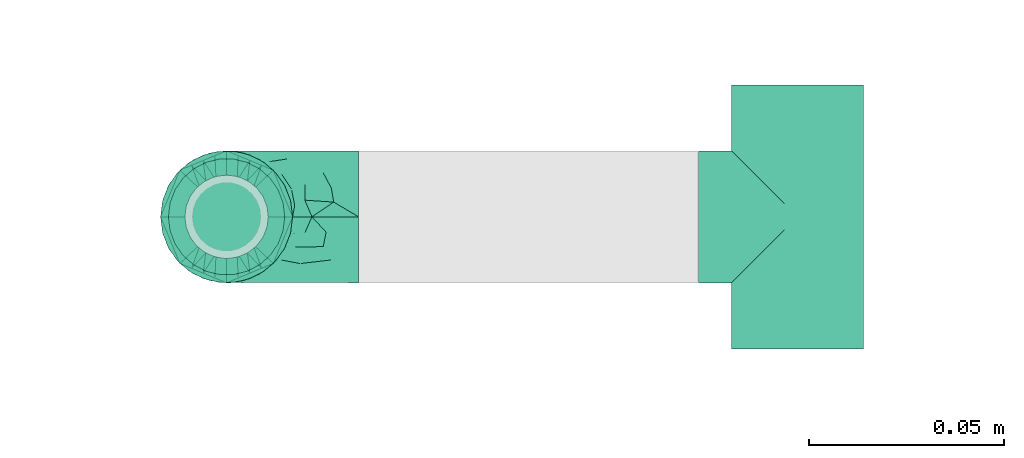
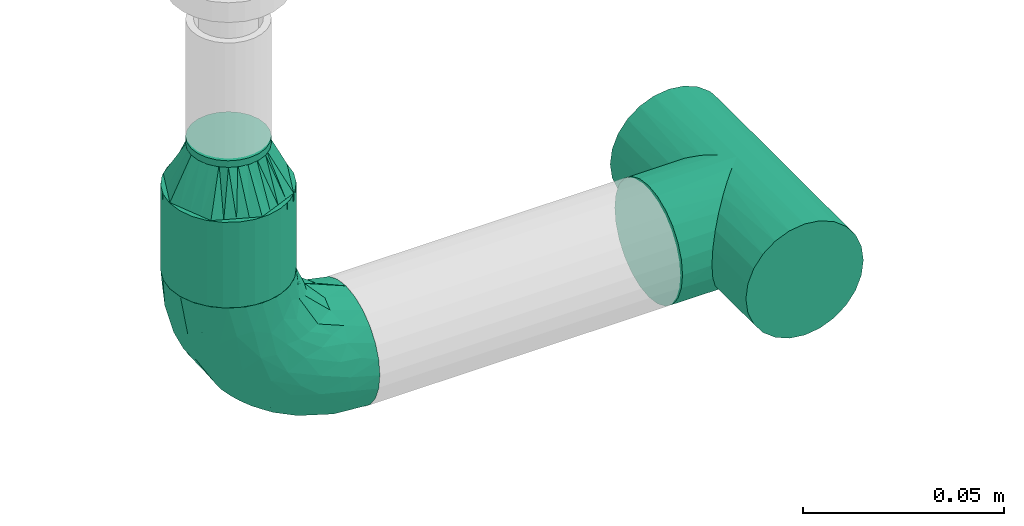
# One storey, part 74 of 157: 3 flow fittings, 1 flow segment.
"""IFC2X3 building model written with IfcOpenShell, lengths in millimetres."""

from ifc_helpers import new_model, entity, si_unit, converted_unit, derived_unit, direction, frame, origin_with_axes, origin_2d_with_axis, place, context, subcontext, project, spatial, hollow_circle, extrude, open_shell, surface_model, source, transform, mapped, type_object, element, save


model = new_model("IFC2X3")

# Units and contexts
model_context = context("Model", 3, precision=0.01, world=frame((0.0, 4.29681676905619e-09, 0.0)), true_north=direction((4.01073788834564e-13, 1.0)))
plan_context = context("Plan", 3, precision=0.01, world=frame((0.0, 4.29681676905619e-09, 0.0)), true_north=direction((4.01073788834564e-13, 1.0)))
body_context = subcontext(model_context, "Body", "Model", "MODEL_VIEW")
ifc_project = project(units=[converted_unit("PLANEANGLEUNIT", "DEGREE", entity("IfcPositiveLengthMeasure", 0.0174532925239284), si_unit("PLANEANGLEUNIT", "RADIAN"), dimensions=[0, 0, 0, 0, 0, 0, 0]), si_unit("AREAUNIT", "SQUARE_METRE"), si_unit("LENGTHUNIT", "METRE", prefix="MILLI"), si_unit("MASSUNIT", "GRAM", prefix="KILO"), si_unit("POWERUNIT", "WATT"), si_unit("PRESSUREUNIT", "PASCAL"), si_unit("FORCEUNIT", "NEWTON", prefix="KILO"), si_unit("ELECTRICCURRENTUNIT", "AMPERE"), si_unit("THERMODYNAMICTEMPERATUREUNIT", "DEGREE_CELSIUS"), si_unit("TIMEUNIT", "SECOND"), si_unit("VOLUMEUNIT", "CUBIC_METRE"), derived_unit("LINEARVELOCITYUNIT", [(si_unit("LENGTHUNIT", "METRE"), 1), (si_unit("TIMEUNIT", "SECOND"), -1)]), derived_unit("VOLUMETRICFLOWRATEUNIT", [(si_unit("VOLUMEUNIT", "CUBIC_METRE"), 1), (si_unit("TIMEUNIT", "SECOND"), -1)]), derived_unit("THERMALTRANSMITTANCEUNIT", [(si_unit("POWERUNIT", "WATT"), 1), (si_unit("THERMODYNAMICTEMPERATUREUNIT", "KELVIN"), -1), (si_unit("AREAUNIT", "SQUARE_METRE"), -1)])], contexts=[model_context, plan_context])

# Site, building, storey
site_placement = place(None, frame((0.0, -4.29681676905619e-09, 0.0), z_axis=(0.0, 0.0, 1.0), x_axis=(1.0, 0.0, 0.0)))
site = spatial("IfcSite", under=ifc_project, at=site_placement, CompositionType="ELEMENT")
building_placement = place(site_placement, frame((0.0, 4.29681676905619e-09, 0.0), z_axis=(0.0, 0.0, 1.0), x_axis=(1.0, 0.0, 0.0)))
building = spatial("IfcBuilding", under=site, at=building_placement, Name="mc-building", CompositionType="ELEMENT")
storey_placement = place(building_placement, frame((0.0, 0.0, 204000.0), z_axis=(0.0, 0.0, 1.0), x_axis=(1.0, 0.0, 0.0)))
storey = spatial("IfcBuildingStorey", under=building, at=storey_placement, Name="Nivå D", CompositionType="ELEMENT", Elevation=204000.0)

# Flow fittings
pipe_fitting_type_1 = type_object("IfcPipeFittingType", Name="magi_pipe_fe_tee_centric_90_NOR", PredefinedType="JUNCTION")
shared_shape_1 = source(origin_with_axes(), body_context, "Body", "SurfaceModel", [
    surface_model("IfcShellBasedSurfaceModel", [(-33.8, 4.37404, -16.32415), (-33.8, 0.0, -16.9), (-33.8, 16.32415, -4.37404), (-33.8, 8.45, -14.63583), (-33.8, 11.9501, -11.9501), (-33.8, 14.63583, -8.45), (-33.8, -16.9, 0.0), (-33.8, -11.9501, -11.9501), (-33.8, -14.63583, -8.45), (-33.8, -8.45, -14.63583), (-33.8, -4.37404, -16.32415), (-33.8, -16.32415, -4.37404), (-33.8, 14.63583, 8.45), (-33.8, 16.32415, 4.37404), (-33.8, -8.45, 14.63583), (-33.8, 8.45, 14.63583), (-33.8, 11.9501, 11.9501), (-33.8, 4.37404, 16.32415), (-33.8, 0.0, 16.9), (-33.8, -11.9501, 11.9501), (-33.8, -14.63583, 8.45), (-33.8, -16.32415, 4.37404), (-33.8, -4.37404, 16.32415), (-33.8, 16.9, 0.0), (33.8, 4.37404, -16.32415), (33.8, -16.9, 0.0), (33.8, 0.0, -16.9), (33.8, 14.63583, -8.45), (33.8, 8.45, -14.63583), (33.8, 16.32415, -4.37404), (33.8, 11.9501, -11.9501), (33.8, -16.32415, 4.37404), (33.8, -8.45, -14.63583), (33.8, -4.37404, -16.32415), (33.8, -11.9501, -11.9501), (33.8, -14.63583, -8.45), (33.8, -16.32415, -4.37404), (33.8, 16.32415, 4.37404), (33.8, 8.45, 14.63583), (33.8, 14.63583, 8.45), (33.8, 11.9501, 11.9501), (33.8, -8.45, 14.63583), (33.8, 4.37404, 16.32415), (33.8, -14.63583, 8.45), (33.8, -11.9501, 11.9501), (33.8, 0.0, 16.9), (33.8, -4.37404, 16.32415), (33.8, 16.9, 0.0), (16.28698, -16.28698, 4.51047), (16.9, -16.9, 0.0), (14.62704, -14.62704, 8.4652), (9.47213, -9.47213, 13.99602), (12.26343, -12.26343, 11.62834), (-16.9, -16.9, 0.0), (-16.28698, -16.28698, 4.51047), (-14.62704, -14.62704, 8.4652), (-12.26343, -12.26343, 11.62834), (-9.47213, -9.47213, 13.99602), (-6.42894, -6.42894, 15.62942), (6.42894, -6.42894, 15.62942), (3.24522, -3.24522, 16.58549), (0.0, 0.0, 16.9), (-3.24522, -3.24522, 16.58549), (3.24522, -3.24522, -16.58549), (0.0, 0.0, -16.9), (-3.24522, -3.24522, -16.58549), (-6.42894, -6.42894, -15.62942), (6.42894, -6.42894, -15.62942), (9.47213, -9.47213, -13.99602), (12.26343, -12.26343, -11.62834), (14.62704, -14.62704, -8.4652), (16.28698, -16.28698, -4.51047), (-9.47213, -9.47213, -13.99602), (-12.26343, -12.26343, -11.62834), (-16.28698, -16.28698, -4.51047), (-14.62704, -14.62704, -8.4652), (4.37404, -25.35, -16.32415), (-16.9, -25.35, 0.0), (0.0, -25.35, -16.9), (14.63583, -25.35, -8.45), (8.45, -25.35, -14.63583), (16.32415, -25.35, -4.37404), (11.9501, -25.35, -11.9501), (-11.9501, -25.35, -11.9501), (-8.45, -25.35, -14.63583), (-4.37404, -25.35, -16.32415), (-14.63583, -25.35, -8.45), (-16.32415, -25.35, -4.37404), (16.9, -25.35, 0.0), (8.45, -25.35, 14.63583), (16.32415, -25.35, 4.37404), (14.63583, -25.35, 8.45), (-8.45, -25.35, 14.63583), (11.9501, -25.35, 11.9501), (4.37404, -25.35, 16.32415), (-16.32415, -25.35, 4.37404), (-11.9501, -25.35, 11.9501), (-14.63583, -25.35, 8.45), (0.0, -25.35, 16.9), (-4.37404, -25.35, 16.32415)], [open_shell([[[0, 1, 2]], [[3, 0, 4]], [[0, 2, 5]], [[4, 0, 5]], [[6, 2, 1]], [[7, 8, 9]], [[1, 10, 9]], [[11, 6, 8]], [[1, 9, 8]], [[1, 8, 6]], [[6, 12, 2]], [[12, 13, 2]], [[14, 12, 6]], [[12, 14, 15]], [[16, 12, 15]], [[17, 15, 18]], [[19, 14, 20]], [[21, 20, 14]], [[22, 18, 14]], [[14, 6, 21]], [[14, 18, 15]], [[23, 2, 13]], [[24, 25, 26]], [[27, 24, 28]], [[27, 29, 24]], [[27, 28, 30]], [[31, 25, 24]], [[26, 32, 33]], [[26, 34, 32]], [[35, 25, 36]], [[35, 34, 26]], [[25, 35, 26]], [[24, 29, 31]], [[29, 37, 38]], [[38, 37, 39]], [[38, 31, 29]], [[38, 39, 40]], [[41, 38, 42]], [[43, 41, 44]], [[41, 43, 31]], [[41, 45, 46]], [[41, 31, 38]], [[42, 45, 41]], [[29, 47, 37]], [[31, 43, 48]], [[25, 31, 49]], [[49, 31, 48]], [[43, 50, 48]], [[44, 41, 51]], [[50, 43, 52]], [[51, 52, 44]], [[52, 43, 44]], [[53, 54, 21]], [[53, 21, 6]], [[21, 54, 20]], [[54, 55, 20]], [[56, 57, 19]], [[19, 20, 56]], [[19, 57, 14]], [[56, 20, 55]], [[14, 57, 58]], [[51, 41, 59]], [[60, 45, 61]], [[59, 46, 60]], [[46, 59, 41]], [[60, 46, 45]], [[61, 45, 42]], [[39, 37, 13]], [[16, 38, 40]], [[12, 40, 39]], [[42, 38, 15]], [[23, 37, 47]], [[62, 61, 18]], [[62, 22, 58]], [[22, 62, 18]], [[58, 22, 14]], [[61, 17, 18]], [[42, 17, 61]], [[15, 17, 42]], [[15, 38, 16]], [[12, 16, 40]], [[13, 12, 39]], [[37, 23, 13]], [[5, 27, 30]], [[23, 47, 29]], [[30, 28, 3]], [[27, 2, 29]], [[26, 33, 63]], [[26, 64, 24]], [[64, 26, 63]], [[28, 24, 0]], [[64, 0, 24]], [[4, 30, 3]], [[2, 27, 5]], [[5, 30, 4]], [[2, 23, 29]], [[65, 66, 10]], [[1, 0, 64]], [[1, 65, 10]], [[66, 9, 10]], [[0, 3, 28]], [[1, 64, 65]], [[63, 33, 67]], [[32, 34, 68]], [[69, 68, 34]], [[35, 70, 69]], [[69, 34, 35]], [[32, 68, 67]], [[36, 25, 49]], [[36, 71, 35]], [[71, 36, 49]], [[35, 71, 70]], [[72, 9, 66]], [[72, 7, 9]], [[7, 72, 73]], [[7, 73, 8]], [[74, 53, 11]], [[75, 74, 8]], [[74, 11, 8]], [[11, 53, 6]], [[75, 8, 73]], [[32, 67, 33]], [[76, 77, 78]], [[79, 76, 80]], [[79, 81, 76]], [[79, 80, 82]], [[77, 76, 81]], [[78, 83, 84]], [[84, 85, 78]], [[86, 77, 87]], [[83, 78, 86]], [[77, 86, 78]], [[81, 88, 77]], [[89, 88, 90]], [[89, 90, 91]], [[92, 77, 89]], [[89, 91, 93]], [[92, 89, 94]], [[95, 96, 97]], [[96, 95, 92]], [[92, 98, 99]], [[95, 77, 92]], [[94, 98, 92]], [[89, 77, 88]], [[77, 95, 53]], [[54, 53, 95]], [[97, 96, 56]], [[96, 92, 57]], [[95, 97, 54]], [[58, 92, 99]], [[55, 54, 97]], [[56, 55, 97]], [[58, 57, 92]], [[98, 61, 62]], [[58, 99, 62]], [[56, 96, 57]], [[62, 99, 98]], [[94, 60, 98]], [[89, 59, 94]], [[91, 90, 48]], [[52, 93, 91]], [[93, 51, 89]], [[49, 90, 88]], [[59, 60, 94]], [[51, 59, 89]], [[49, 48, 90]], [[50, 52, 91]], [[48, 50, 91]], [[51, 93, 52]], [[98, 60, 61]], [[88, 81, 49]], [[71, 49, 81]], [[79, 82, 69]], [[82, 80, 68]], [[81, 79, 71]], [[67, 80, 76]], [[70, 71, 79]], [[69, 70, 79]], [[67, 68, 80]], [[78, 64, 63]], [[67, 76, 63]], [[69, 82, 68]], [[63, 76, 78]], [[85, 65, 78]], [[84, 66, 85]], [[86, 87, 74]], [[86, 73, 83]], [[72, 84, 83]], [[53, 87, 77]], [[66, 65, 85]], [[72, 66, 84]], [[53, 74, 87]], [[75, 73, 86]], [[74, 75, 86]], [[72, 83, 73]], [[78, 65, 64]]])]),
])
flow_fitting_1_placement = place(storey_placement, frame((516023.00602, 415796.86725, 2565.0), z_axis=(0.0, 0.0, 1.0), x_axis=(0.0, -1.0, 0.0)))
element("IfcFlowFitting", 1, at=flow_fitting_1_placement, inside=storey, type_object=pipe_fitting_type_1, Name="magi_pipe_fe_tee_centric_90_NOR", context=body_context, shape_type="MappedRepresentation", body=[
    mapped(shared_shape_1, transform((0.0, 0.0, 0.0), scale=1.0)),
])
pipe_fitting_type_2 = type_object("IfcPipeFittingType", Name="magi_pipe_fe_elbow_short_001", PredefinedType="BEND")
shared_shape_2 = source(origin_with_axes(), body_context, "Body", "SurfaceModel", [
    surface_model("IfcShellBasedSurfaceModel", [(-33.8, 8.45, -14.63583), (-33.8, 4.37404, -16.32415), (-33.8, 11.9501, -11.9501), (-33.8, -11.9501, -11.9501), (-33.8, -14.63583, -8.45), (-33.8, -8.45, -14.63583), (-33.8, 0.0, -16.9), (-33.8, -4.37404, -16.32415), (-33.8, -4.37404, 16.32415), (-33.8, 0.0, 16.9), (-33.8, -8.45, 14.63583), (-33.8, 16.32415, -4.37404), (-33.8, 14.63583, -8.45), (-33.8, -16.32415, -4.37404), (-33.8, -16.9, 0.0), (-33.8, -16.32415, 4.37404), (-33.8, 11.9501, 11.9501), (-33.8, 14.63583, 8.45), (-33.8, 16.32415, 4.37404), (-33.8, 4.37404, 16.32415), (-33.8, 8.45, 14.63583), (-33.8, -14.63583, 8.45), (-33.8, -11.9501, 11.9501), (-33.8, 16.9, 0.0), (-11.9501, 33.8, -11.9501), (0.0, 33.8, -16.9), (-4.37404, 33.8, -16.32415), (-8.45, 33.8, -14.63583), (-14.63583, 33.8, -8.45), (-16.32415, 33.8, -4.37404), (14.63583, 33.8, -8.45), (8.45, 33.8, 14.63583), (16.32415, 33.8, -4.37404), (8.45, 33.8, -14.63583), (11.9501, 33.8, -11.9501), (4.37404, 33.8, -16.32415), (16.32415, 33.8, 4.37404), (16.9, 33.8, 0.0), (-11.9501, 33.8, 11.9501), (-16.32415, 33.8, 4.37404), (-14.63583, 33.8, 8.45), (-8.45, 33.8, 14.63583), (-4.37404, 33.8, 16.32415), (11.9501, 33.8, 11.9501), (14.63583, 33.8, 8.45), (0.0, 33.8, 16.9), (4.37404, 33.8, 16.32415), (-16.9, 33.8, 0.0), (-24.79389, -13.12945, 9.48721), (-22.19287, -9.75018, 12.59315), (-24.09897, -14.97035, 0.0), (-14.93934, -10.76256, 8.5297), (-22.46095, -14.75051, 5.27077), (14.75051, 22.46094, 5.27077), (11.9251, 13.23888, 4.33236), (13.04069, 14.39795, 0.0), (7.71387, 13.68847, 11.55891), (9.75018, 22.19287, 12.59315), (4.10169, 13.0571, 14.04018), (-24.84007, -6.39063, 15.2048), (-25.81779, -2.23879, 16.61097), (-23.66549, 2.59054, 16.87119), (-26.50418, 14.06512, 11.08152), (-24.21253, 17.66365, 7.72657), (-29.58514, 15.86957, 7.00283), (-6.17382, -7.5455, 0.0), (-13.23888, -11.9251, 4.33236), (-14.39795, -13.04069, 0.0), (-17.81434, 18.87373, 11.97104), (-6.30846, 29.15138, 15.82987), (-2.31622, 25.28002, 16.85849), (-29.23923, 10.23435, 13.77053), (-1.45439, -2.85688, 7.61475), (-0.28326, 0.34872, 10.09509), (-5.74484, -4.04709, 10.4122), (-4.41137, 11.31918, 16.59407), (-8.39727, 3.10034, 15.7812), (-1.72649, 9.1306, 15.53089), (-17.39909, 24.75344, 7.64977), (-26.19233, 20.0512, 0.0), (-28.14518, 17.29657, 4.25857), (-26.05147, 6.6281, 15.96447), (-5.87354, 16.61944, 16.86968), (-12.51807, 12.51807, 16.48937), (-10.06312, 7.38516, 16.81295), (-3.01882, 3.01882, 13.81718), (-13.0571, -4.10169, 14.04018), (-16.82553, -0.15166, 16.38038), (10.76256, 14.93934, 8.5297), (13.12945, 24.79389, 9.48721), (6.39063, 24.84007, 15.2048), (2.23879, 25.81779, 16.61097), (-13.68847, -7.71387, 11.55891), (14.97035, 24.09897, 0.0), (-7.30894, 22.89991, 16.09489), (-10.67958, 26.17414, 14.008), (-12.78295, 18.26924, 15.06066), (-13.88562, 22.45231, 12.93244), (-18.04944, 15.16501, 14.04434), (-23.11658, 20.08178, 4.02986), (-21.84989, 21.84989, 0.0), (-18.55817, 25.48277, 3.93065), (-13.95142, 26.94732, 11.03289), (-18.57098, 7.23906, 16.59756), (-16.58335, 4.14122, 16.89279), (-17.96666, 11.46709, 15.63151), (-9.84453, 17.54304, 16.18938), (0.15166, 16.82553, 16.38038), (-23.27207, 11.47201, 14.23154), (3.84842, 5.86994, 10.70473), (-8.0212, -7.54413, 7.93275), (1.00345, -2.19508, 4.57414), (5.13203, 3.01004, 5.90201), (5.24161, 1.7543, 2.53265), (8.70457, 7.04947, 3.99182), (-20.0512, 26.19233, 0.0), (8.4852, 8.76699, 7.09296), (-4.55488, -6.72064, 4.90681), (2.05031, -2.05031, 0.0), (7.5455, 6.17382, 0.0), (-26.75399, 2.1369, -16.845), (-14.61995, 24.73803, -11.27736), (-28.45274, -13.45335, -9.81895), (-26.00469, 6.63555, -15.96645), (-23.06726, 20.04573, -4.26202), (-13.80647, -4.26506, -14.17873), (-14.67501, -0.21081, -16.07388), (-6.7902, -0.2828, -13.8478), (-24.53586, 11.08096, -14.13417), (-26.72048, 14.00837, -11.05776), (10.0967, 24.44989, -12.75976), (5.83237, 21.40218, -15.03047), (6.66249, 28.54238, -15.38093), (-20.38182, 15.48705, -12.74596), (12.53268, 21.23441, -9.15363), (12.54494, 15.67504, -5.54878), (9.7522, 12.89279, -8.66343), (-15.65186, 19.64213, -13.01327), (-12.03528, 20.66498, -14.67665), (-15.61907, 15.61906, -14.83879), (-25.56551, -15.26206, 0.0), (-24.65452, -15.12934, -5.50955), (13.45335, 28.45274, -9.81895), (15.12934, 24.65452, -5.50955), (-7.35442, -8.31014, -5.65563), (-15.67504, -12.54494, -5.54878), (-24.44989, -10.0967, -12.75976), (0.16522, 0.41303, -9.71728), (-5.70658, -5.33066, -8.89288), (-5.13869, -2.37198, -11.53565), (-21.23441, -12.53268, -9.15363), (0.71146, 7.93863, -14.09382), (0.21081, 14.67501, -16.07388), (3.49291, 14.42772, -14.76381), (-24.89911, -2.13088, -16.591), (-28.54238, -6.66249, -15.38093), (-18.44386, -7.71663, -13.26957), (2.13088, 24.89911, -16.591), (-28.64342, 17.44413, -2.89318), (1.70017, -1.28722, -5.09504), (-16.57067, 26.81947, -7.36596), (-17.69055, 27.4263, -3.76405), (-12.89279, -9.7522, -8.66343), (-5.96611, 5.96611, -15.95814), (-20.53709, 20.09345, -8.28985), (-2.1369, 26.75399, -16.845), (-6.89872, 24.58781, -16.02578), (-10.60739, 26.53157, -13.98044), (-21.40218, -5.83237, -15.03047), (2.93192, 5.89627, -11.55917), (6.89393, 12.61842, -11.82233), (5.58056, 5.95325, -8.79455), (-3.99512, 18.61798, -16.89635), (8.31014, 7.35442, -5.65563), (-9.1383, 9.86148, -16.89041), (-9.99983, 16.02119, -16.39699), (-16.68576, 9.78031, -16.34199), (-27.01915, 16.61158, -7.12979), (15.26206, 25.56551, 0.0), (-18.61798, 3.99512, -16.89635), (-19.37495, 27.82495, 0.0), (-12.61842, -6.89393, -11.82233), (-18.84705, 19.14018, -10.96545)], [open_shell([[[0, 1, 2]], [[3, 4, 5]], [[6, 7, 5]], [[8, 9, 10]], [[1, 6, 2]], [[11, 12, 2]], [[4, 2, 6]], [[2, 13, 10]], [[5, 4, 6]], [[2, 4, 13]], [[14, 15, 13]], [[11, 2, 16]], [[11, 17, 18]], [[11, 16, 17]], [[19, 20, 16]], [[16, 2, 10]], [[19, 16, 10]], [[21, 22, 15]], [[22, 13, 15]], [[22, 10, 13]], [[10, 9, 19]], [[11, 18, 23]], [[24, 25, 26]], [[24, 26, 27]], [[24, 28, 29]], [[25, 24, 30]], [[31, 32, 24]], [[33, 30, 34]], [[33, 35, 25]], [[25, 30, 33]], [[32, 30, 24]], [[32, 36, 37]], [[38, 24, 29]], [[39, 40, 29]], [[40, 38, 29]], [[38, 41, 42]], [[38, 31, 24]], [[31, 38, 42]], [[36, 43, 44]], [[36, 32, 43]], [[31, 45, 46]], [[32, 31, 43]], [[42, 45, 31]], [[39, 29, 47]], [[22, 48, 49]], [[15, 14, 50]], [[51, 48, 52]], [[53, 54, 55]], [[48, 22, 21]], [[15, 52, 21]], [[56, 57, 58]], [[49, 10, 22]], [[49, 59, 10]], [[9, 60, 61]], [[62, 63, 64]], [[65, 66, 67]], [[57, 43, 31]], [[62, 68, 63]], [[42, 69, 70]], [[20, 71, 16]], [[8, 60, 9]], [[72, 73, 74]], [[75, 76, 77]], [[16, 62, 17]], [[40, 39, 78]], [[79, 23, 80]], [[64, 18, 17]], [[9, 61, 19]], [[19, 81, 20]], [[82, 83, 84]], [[74, 85, 86]], [[59, 86, 87]], [[88, 89, 57]], [[90, 31, 46]], [[44, 53, 36]], [[46, 45, 91]], [[54, 53, 88]], [[44, 89, 53]], [[92, 86, 49]], [[89, 44, 43]], [[10, 59, 8]], [[53, 55, 93]], [[93, 36, 53]], [[66, 52, 67]], [[94, 82, 70]], [[95, 96, 94]], [[97, 98, 96]], [[79, 99, 100]], [[41, 38, 95]], [[101, 100, 99]], [[68, 78, 63]], [[42, 41, 69]], [[23, 18, 80]], [[95, 94, 69]], [[78, 101, 99]], [[38, 102, 95]], [[70, 45, 42]], [[97, 95, 102]], [[15, 50, 52]], [[90, 57, 31]], [[57, 90, 58]], [[81, 19, 61]], [[103, 104, 84]], [[105, 81, 103]], [[38, 40, 102]], [[106, 96, 83]], [[94, 106, 82]], [[91, 70, 107]], [[71, 62, 16]], [[62, 108, 98]], [[86, 59, 49]], [[67, 52, 50]], [[60, 59, 87]], [[92, 49, 51]], [[86, 85, 76]], [[91, 90, 46]], [[37, 36, 93]], [[107, 77, 58]], [[107, 58, 90]], [[58, 85, 109]], [[110, 74, 92]], [[72, 74, 110]], [[66, 51, 52]], [[72, 111, 112]], [[113, 114, 112]], [[56, 88, 57]], [[52, 48, 21]], [[49, 48, 51]], [[57, 89, 43]], [[53, 89, 88]], [[103, 81, 61]], [[71, 81, 108]], [[18, 64, 80]], [[63, 78, 99]], [[47, 115, 101]], [[101, 115, 100]], [[40, 78, 102]], [[68, 102, 78]], [[97, 96, 95]], [[105, 98, 108]], [[103, 84, 83]], [[107, 70, 82]], [[76, 84, 87]], [[82, 84, 75]], [[70, 91, 45]], [[90, 91, 107]], [[59, 60, 8]], [[61, 60, 87]], [[73, 85, 74]], [[109, 112, 116]], [[103, 61, 104]], [[105, 103, 83]], [[96, 105, 83]], [[81, 105, 108]], [[96, 98, 105]], [[62, 98, 68]], [[61, 87, 104]], [[87, 84, 104]], [[86, 76, 87]], [[77, 76, 85]], [[58, 77, 85]], [[75, 77, 107]], [[82, 75, 107]], [[76, 75, 84]], [[81, 71, 20]], [[62, 71, 108]], [[95, 69, 41]], [[70, 69, 94]], [[62, 64, 17]], [[80, 63, 99]], [[63, 80, 64]], [[80, 99, 79]], [[66, 65, 117]], [[110, 66, 117]], [[112, 114, 116]], [[118, 117, 65]], [[110, 92, 51]], [[112, 111, 113]], [[119, 55, 54]], [[74, 86, 92]], [[58, 109, 56]], [[116, 56, 109]], [[66, 110, 51]], [[72, 110, 117]], [[111, 72, 117]], [[73, 112, 109]], [[117, 118, 111]], [[113, 111, 118]], [[118, 119, 113]], [[114, 119, 54]], [[119, 114, 113]], [[116, 54, 88]], [[54, 116, 114]], [[116, 88, 56]], [[112, 73, 72]], [[85, 73, 109]], [[78, 39, 101]], [[47, 101, 39]], [[102, 68, 97]], [[97, 68, 98]], [[82, 106, 83]], [[94, 96, 106]], [[1, 120, 6]], [[28, 24, 121]], [[3, 122, 4]], [[0, 123, 1]], [[100, 124, 79]], [[125, 126, 127]], [[128, 2, 129]], [[130, 131, 132]], [[128, 129, 133]], [[134, 135, 136]], [[137, 138, 139]], [[128, 0, 2]], [[67, 140, 141]], [[134, 142, 143]], [[141, 13, 4]], [[144, 65, 145]], [[146, 3, 5]], [[147, 148, 149]], [[145, 141, 150]], [[151, 152, 153]], [[154, 7, 6]], [[5, 155, 146]], [[150, 146, 156]], [[155, 5, 7]], [[143, 135, 134]], [[35, 157, 25]], [[23, 79, 158]], [[148, 159, 144]], [[160, 161, 29]], [[145, 162, 144]], [[163, 152, 151]], [[29, 28, 160]], [[121, 164, 160]], [[33, 34, 130]], [[25, 165, 26]], [[26, 165, 166]], [[142, 34, 30]], [[24, 27, 167]], [[124, 161, 164]], [[157, 35, 132]], [[155, 154, 168]], [[123, 0, 128]], [[169, 170, 171]], [[172, 157, 152]], [[26, 166, 27]], [[132, 35, 33]], [[142, 130, 34]], [[168, 154, 126]], [[136, 135, 173]], [[133, 137, 139]], [[2, 12, 129]], [[170, 131, 130]], [[30, 32, 143]], [[172, 174, 175]], [[176, 123, 128]], [[158, 177, 11]], [[135, 55, 119]], [[167, 27, 166]], [[175, 166, 172]], [[137, 167, 138]], [[122, 141, 4]], [[140, 14, 13]], [[32, 37, 178]], [[170, 130, 134]], [[152, 157, 131]], [[165, 157, 172]], [[153, 170, 151]], [[152, 163, 174]], [[168, 125, 156]], [[122, 146, 150]], [[120, 154, 6]], [[179, 174, 126]], [[179, 126, 154]], [[126, 163, 127]], [[162, 145, 150]], [[140, 13, 141]], [[32, 178, 143]], [[55, 143, 178]], [[177, 129, 12]], [[128, 133, 139]], [[176, 128, 139]], [[120, 123, 179]], [[121, 160, 28]], [[161, 100, 180]], [[166, 175, 138]], [[121, 24, 167]], [[161, 47, 29]], [[79, 124, 158]], [[124, 164, 177]], [[161, 124, 100]], [[136, 171, 170]], [[127, 163, 151]], [[147, 171, 159]], [[148, 144, 162]], [[127, 151, 169]], [[127, 181, 125]], [[129, 177, 164]], [[12, 11, 177]], [[159, 65, 144]], [[67, 141, 145]], [[143, 55, 135]], [[135, 119, 173]], [[123, 120, 1]], [[154, 120, 179]], [[157, 165, 25]], [[166, 165, 172]], [[172, 152, 174]], [[176, 139, 175]], [[126, 174, 163]], [[176, 174, 179]], [[174, 176, 175]], [[123, 176, 179]], [[150, 181, 162]], [[127, 149, 181]], [[181, 148, 162]], [[159, 148, 147]], [[171, 136, 173]], [[170, 134, 136]], [[159, 171, 173]], [[171, 147, 169]], [[169, 147, 149]], [[151, 170, 169]], [[164, 182, 129]], [[182, 121, 137]], [[181, 149, 148]], [[169, 149, 127]], [[182, 137, 133]], [[167, 137, 121]], [[166, 138, 167]], [[175, 139, 138]], [[129, 182, 133]], [[121, 182, 164]], [[161, 160, 164]], [[47, 161, 180]], [[177, 158, 124]], [[23, 158, 11]], [[130, 132, 33]], [[157, 132, 131]], [[143, 142, 30]], [[130, 142, 134]], [[154, 155, 7]], [[146, 155, 168]], [[146, 122, 3]], [[141, 122, 150]], [[152, 131, 153]], [[159, 119, 118]], [[67, 145, 65]], [[170, 153, 131]], [[119, 159, 173]], [[159, 118, 65]], [[156, 125, 181]], [[126, 125, 168]], [[150, 156, 181]], [[168, 156, 146]]])]),
])
flow_fitting_2_placement = place(storey_placement, frame((515876.83732, 415796.86725, 2565.0), z_axis=(0.0, -1.0, 0.0), x_axis=(0.0, 0.0, -1.0)))
element("IfcFlowFitting", 2, at=flow_fitting_2_placement, inside=storey, type_object=pipe_fitting_type_2, Name="magi_pipe_fe_elbow_short_001", context=body_context, shape_type="MappedRepresentation", body=[
    mapped(shared_shape_2, transform((0.0, 0.0, 0.0), scale=1.0)),
])
pipe_fitting_type_3 = type_object("IfcPipeFittingType", Name="magi_pipe_fe_reducer_centric_short_NOR", PredefinedType="TRANSITION")
shared_shape_3 = source(origin_with_axes(), body_context, "Body", "SurfaceModel", [
    surface_model("IfcShellBasedSurfaceModel", [(-2.0, -7.56604, -7.56604), (-2.0, -10.33541, -2.76936), (-2.0, -5.35, -9.26647), (-2.0, 5.35, -9.26647), (-2.0, 10.33541, -2.76936), (-2.0, 7.56604, -7.56604), (12.4, 11.9501, 11.9501), (12.4, 0.0, 16.9), (12.4, 11.9501, -11.9501), (12.4, 16.9, 0.0), (0.0, -10.7, 0.0), (0.0, -5.35, 9.26647), (0.0, -5.35, -9.26647), (0.0, 10.7, 0.0), (12.4, 15.66253, -2.98753), (12.4, 8.96258, -13.18758), (0.0, 6.6875, -6.94985), (12.4, -15.66253, -2.98753), (12.4, -16.9, 0.0), (12.4, 5.97505, -14.42505), (0.0, 5.35, -9.26647), (12.4, 14.42505, -5.97505), (0.0, 8.025, -4.63324), (0.0, 9.3625, -2.31662), (0.0, -9.3625, -2.31662), (0.0, -8.025, -4.63324), (12.4, -14.42505, -5.97505), (12.4, 13.18758, -8.96258), (12.4, -13.18758, -8.96258), (12.4, -11.9501, -11.9501), (0.0, -6.6875, -6.94985), (12.4, -8.96258, -13.18758), (12.4, -5.97505, -14.42505), (12.4, -15.66253, 2.98753), (12.4, -8.96258, 13.18758), (0.0, -6.6875, 6.94985), (12.4, -11.9501, 11.9501), (12.4, 15.66253, 2.98753), (12.4, -5.97505, 14.42505), (12.4, -14.42505, 5.97505), (0.0, -8.025, 4.63324), (0.0, -9.3625, 2.31662), (0.0, 9.3625, 2.31662), (0.0, 8.025, 4.63324), (12.4, 14.42505, 5.97505), (12.4, -13.18758, 8.96258), (12.4, 13.18758, 8.96258), (0.0, 6.6875, 6.94985), (12.4, 8.96258, 13.18758), (0.0, 5.35, 9.26647), (12.4, 5.97505, 14.42505), (14.4, 4.37404, -16.32415), (14.4, 8.45, -14.63583), (14.4, 11.9501, -11.9501), (14.4, -8.45, -14.63583), (14.4, 16.32415, -4.37404), (14.4, 16.32415, 4.37404), (14.4, 14.63583, -8.45), (14.4, 0.0, -16.9), (14.4, -4.37404, -16.32415), (14.4, -11.9501, -11.9501), (14.4, -16.32415, -4.37404), (14.4, -14.63583, -8.45), (14.4, -16.32415, 4.37404), (14.4, 16.9, 0.0), (14.4, 14.63583, 8.45), (14.4, 11.9501, 11.9501), (14.4, 4.37404, 16.32415), (14.4, 8.45, 14.63583), (14.4, 0.0, 16.9), (14.4, -14.63583, 8.45), (14.4, -16.9, 0.0), (14.4, -8.45, 14.63583), (14.4, -11.9501, 11.9501), (14.4, -4.37404, 16.32415), (12.4, 4.37404, 16.32415), (12.4, -14.63583, 8.45), (12.4, 16.32415, 4.37404), (12.4, 8.45, 14.63583), (12.4, 14.63583, 8.45), (12.4, -8.45, 14.63583), (12.4, -4.37404, 16.32415), (12.4, -16.32415, 4.37404), (12.4, -16.32415, -4.37404), (12.4, -8.45, -14.63583), (12.4, 16.32415, -4.37404), (12.4, 14.63583, -8.45), (12.4, 8.45, -14.63583), (12.4, 4.37404, -16.32415), (12.4, 0.0, -16.9), (12.4, -14.63583, -8.45), (12.4, -4.37404, -16.32415), (-2.0, 2.76936, 10.33541), (-2.0, 0.0, 10.7), (-2.0, 5.35, 9.26647), (-2.0, 7.56604, 7.56604), (-2.0, 9.26647, 5.35), (-2.0, 10.33541, 2.76936), (-2.0, -10.33541, 2.76936), (-2.0, -2.76936, 10.33541), (-2.0, -7.56604, 7.56604), (-2.0, -5.35, 9.26647), (-2.0, -9.26647, 5.35), (-2.0, -10.7, 0.0), (-2.0, 9.26647, -5.35), (-2.0, 2.76936, -10.33541), (-2.0, -9.26647, -5.35), (-2.0, 0.0, -10.7), (-2.0, -2.76936, -10.33541), (-2.0, 10.7, 0.0), (0.0, 0.0, -10.7), (0.0, 2.76936, -10.33541), (0.0, 10.33541, -2.76936), (0.0, 7.56604, -7.56604), (0.0, -10.33541, -2.76936), (0.0, 9.26647, -5.35), (0.0, 0.0, 10.7), (0.0, -2.76936, -10.33541), (0.0, -7.56604, -7.56604), (0.0, -9.26647, -5.35), (0.0, 10.33541, 2.76936), (0.0, 9.26647, 5.35), (0.0, 7.56604, 7.56604), (0.0, 2.76936, 10.33541), (0.0, -7.56604, 7.56604), (0.0, -10.33541, 2.76936), (0.0, -9.26647, 5.35), (0.0, -2.76936, 10.33541), (0.0, 2.675, -9.26647), (0.0, -2.675, -9.26647), (12.4, 2.98753, -15.66253), (0.0, 0.0, -9.26647), (12.4, -2.98753, -15.66253), (0.0, -2.675, 9.26647), (0.0, 2.675, 9.26647), (12.4, -2.98753, 15.66253), (0.0, 0.0, 9.26647), (12.4, 2.98753, 15.66253)], [open_shell([[[0, 1, 2]], [[3, 4, 5]], [[6, 7, 8]], [[8, 9, 6]], [[10, 11, 12]], [[13, 9, 14]], [[15, 16, 8]], [[17, 18, 10]], [[15, 19, 20]], [[21, 22, 23]], [[24, 25, 26]], [[22, 21, 27]], [[28, 26, 25]], [[29, 30, 31]], [[12, 32, 31]], [[10, 18, 33]], [[34, 35, 36]], [[37, 9, 13]], [[34, 38, 11]], [[39, 40, 41]], [[42, 43, 44]], [[40, 39, 45]], [[46, 44, 43]], [[6, 47, 48]], [[49, 50, 48]], [[51, 52, 53]], [[54, 51, 53]], [[53, 55, 56]], [[55, 53, 57]], [[53, 56, 54]], [[58, 54, 59]], [[58, 51, 54]], [[60, 61, 62]], [[61, 60, 54]], [[54, 63, 61]], [[56, 55, 64]], [[56, 65, 66]], [[56, 66, 67]], [[67, 63, 54]], [[67, 66, 68]], [[63, 67, 69]], [[69, 70, 63]], [[71, 61, 63]], [[70, 72, 73]], [[70, 69, 72]], [[72, 69, 74]], [[54, 56, 67]], [[75, 76, 7]], [[77, 75, 78]], [[6, 79, 77]], [[6, 77, 78]], [[76, 75, 77]], [[80, 76, 36]], [[80, 81, 7]], [[7, 76, 80]], [[82, 76, 77]], [[82, 83, 18]], [[82, 77, 84]], [[77, 85, 8]], [[8, 85, 86]], [[8, 87, 88]], [[84, 77, 8]], [[88, 89, 8]], [[83, 29, 90]], [[29, 83, 84]], [[84, 89, 91]], [[83, 82, 84]], [[8, 89, 84]], [[85, 77, 9]], [[83, 61, 18]], [[90, 62, 83]], [[54, 29, 84]], [[90, 29, 60]], [[59, 84, 91]], [[83, 62, 61]], [[61, 71, 18]], [[59, 54, 84]], [[60, 29, 54]], [[60, 62, 90]], [[58, 59, 91]], [[91, 89, 58]], [[88, 51, 89]], [[87, 52, 88]], [[57, 8, 86]], [[87, 8, 53]], [[55, 86, 85]], [[87, 53, 52]], [[52, 51, 88]], [[64, 55, 85]], [[57, 86, 55]], [[57, 53, 8]], [[9, 64, 85]], [[89, 51, 58]], [[77, 56, 9]], [[79, 65, 77]], [[68, 6, 78]], [[79, 6, 66]], [[67, 78, 75]], [[77, 65, 56]], [[56, 64, 9]], [[67, 68, 78]], [[66, 6, 68]], [[66, 65, 79]], [[69, 67, 75]], [[75, 7, 69]], [[81, 74, 7]], [[80, 72, 81]], [[70, 36, 76]], [[80, 36, 73]], [[63, 76, 82]], [[80, 73, 72]], [[72, 74, 81]], [[71, 63, 82]], [[70, 76, 63]], [[70, 73, 36]], [[18, 71, 82]], [[7, 74, 69]], [[92, 1, 93]], [[94, 1, 92]], [[95, 96, 97]], [[95, 97, 94]], [[98, 93, 1]], [[99, 100, 101]], [[99, 93, 100]], [[100, 98, 102]], [[93, 98, 100]], [[98, 1, 103]], [[94, 97, 1]], [[1, 97, 4]], [[5, 4, 104]], [[4, 3, 1]], [[105, 1, 3]], [[1, 0, 106]], [[2, 107, 108]], [[2, 1, 105]], [[105, 107, 2]], [[4, 97, 109]], [[20, 110, 111]], [[112, 20, 113]], [[114, 20, 112]], [[112, 113, 115]], [[116, 114, 112]], [[110, 12, 117]], [[110, 20, 12]], [[118, 114, 119]], [[114, 118, 12]], [[20, 114, 12]], [[112, 13, 120]], [[120, 121, 122]], [[120, 122, 123]], [[116, 112, 123]], [[123, 122, 49]], [[116, 124, 114]], [[125, 124, 126]], [[10, 114, 125]], [[124, 127, 11]], [[125, 114, 124]], [[127, 124, 116]], [[123, 112, 120]], [[1, 114, 103]], [[106, 119, 1]], [[12, 0, 2]], [[106, 0, 118]], [[117, 2, 108]], [[1, 119, 114]], [[114, 10, 103]], [[117, 12, 2]], [[118, 0, 12]], [[118, 119, 106]], [[110, 117, 108]], [[108, 107, 110]], [[105, 111, 107]], [[3, 20, 105]], [[115, 5, 104]], [[3, 5, 113]], [[112, 104, 4]], [[3, 113, 20]], [[20, 111, 105]], [[13, 112, 4]], [[115, 104, 112]], [[115, 113, 5]], [[109, 13, 4]], [[107, 111, 110]], [[97, 120, 109]], [[96, 121, 97]], [[49, 95, 94]], [[96, 95, 122]], [[123, 94, 92]], [[97, 121, 120]], [[120, 13, 109]], [[123, 49, 94]], [[122, 95, 49]], [[122, 121, 96]], [[116, 123, 92]], [[92, 93, 116]], [[99, 127, 93]], [[101, 11, 99]], [[126, 100, 102]], [[101, 100, 124]], [[125, 102, 98]], [[101, 124, 11]], [[11, 127, 99]], [[10, 125, 98]], [[126, 102, 125]], [[126, 124, 100]], [[103, 10, 98]], [[93, 127, 116]], [[18, 7, 36]], [[18, 29, 8]], [[89, 8, 29]], [[18, 8, 7]], [[13, 11, 49]], [[13, 20, 12]], [[13, 12, 11]], [[24, 26, 17]], [[10, 24, 17]], [[16, 15, 20]], [[30, 12, 31]], [[23, 14, 21]], [[19, 128, 20]], [[27, 8, 16]], [[32, 12, 129]], [[30, 28, 25]], [[130, 131, 128]], [[129, 132, 32]], [[16, 22, 27]], [[13, 14, 23]], [[128, 19, 130]], [[130, 89, 131]], [[131, 132, 129]], [[89, 132, 131]], [[28, 30, 29]], [[42, 44, 37]], [[13, 42, 37]], [[35, 34, 11]], [[47, 49, 48]], [[41, 33, 39]], [[38, 133, 11]], [[45, 36, 35]], [[50, 49, 134]], [[47, 46, 43]], [[135, 136, 133]], [[134, 137, 50]], [[35, 40, 45]], [[10, 33, 41]], [[133, 38, 135]], [[135, 7, 136]], [[136, 137, 134]], [[7, 137, 136]], [[46, 47, 6]]])]),
])
flow_fitting_3_placement = place(storey_placement, frame((515876.83732, 415796.86725, 2637.24823), z_axis=(0.0, 1.0, 0.0), x_axis=(0.0, 0.0, -1.0)))
element("IfcFlowFitting", 3, at=flow_fitting_3_placement, inside=storey, type_object=pipe_fitting_type_3, Name="magi_pipe_fe_reducer_centric_short_NOR", context=body_context, shape_type="MappedRepresentation", body=[
    mapped(shared_shape_3, transform((0.0, 0.0, 0.0), scale=1.0)),
])

# Flow segment
pipe_segment_type = type_object("IfcPipeSegmentType", Name="Stålrør normaltykke", PredefinedType="RIGIDSEGMENT")
shared_shape_4 = source(origin_with_axes(), body_context, "Body", "SweptSolid", [
    extrude(hollow_circle(Radius=16.9, WallThickness=2.0, at=origin_2d_with_axis()), frame((0.0, 0.0, 0.0), z_axis=(1.0, 0.0, 0.0), x_axis=(0.0, 1.0, 0.0)), (0.0, 0.0, 1.0), 26.0),
])
flow_segment_placement = place(storey_placement, frame((515876.83732, 415796.86725, 2624.84823), z_axis=(0.0, 1.0, 0.0), x_axis=(0.0, 0.0, -1.0)))
element("IfcFlowSegment", 4, at=flow_segment_placement, inside=storey, type_object=pipe_segment_type, Name="Stålrør normaltykke", context=body_context, shape_type="MappedRepresentation", body=[
    mapped(shared_shape_4, transform((0.0, 0.0, 0.0), scale=1.0)),
])

save(model, "model.ifc")
